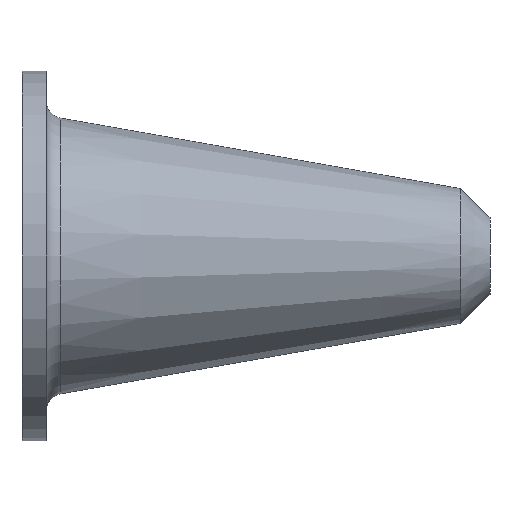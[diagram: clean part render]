
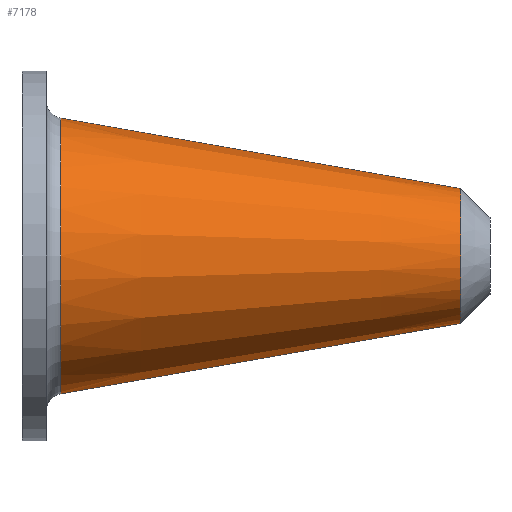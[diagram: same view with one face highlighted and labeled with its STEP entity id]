
A CAD part, front view. The second image highlights one B-rep face of the part: STEP entity #7178.
In plain terms, the highlighted conical face has half-angle 10 degrees and reference radius 1.066 mm.
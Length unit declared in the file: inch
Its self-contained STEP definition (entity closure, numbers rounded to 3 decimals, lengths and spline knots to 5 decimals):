
#941 = DIRECTION ( 'NONE',  ( -1., 0., 0. ) ) ;
#989 = DIRECTION ( 'NONE',  ( 0., 0., 1. ) ) ;
#1043 = EDGE_CURVE ( 'NONE', #3440, #9134, #7086, .T. ) ;
#1178 = VECTOR ( 'NONE', #3556, 39.37008 ) ;
#1554 = VECTOR ( 'NONE', #6618, 39.37008 ) ;
#1888 = FACE_OUTER_BOUND ( 'NONE', #2058, .T. ) ;
#1931 = CIRCLE ( 'NONE', #10756, 0.04196 ) ;
#2058 = EDGE_LOOP ( 'NONE', ( #6169, #8388, #8365, #10330 ) ) ;
#2115 = AXIS2_PLACEMENT_3D ( 'NONE', #8704, #941, #989 ) ;
#2700 = EDGE_CURVE ( 'NONE', #3861, #4194, #5715, .T. ) ;
#2981 = DIRECTION ( 'NONE',  ( 0., 0., 1. ) ) ;
#3402 = EDGE_CURVE ( 'NONE', #9134, #4194, #9131, .T. ) ;
#3440 = VERTEX_POINT ( 'NONE', #8639 ) ;
#3556 = DIRECTION ( 'NONE',  ( -0.985, 0., -0.174 ) ) ;
#3861 = VERTEX_POINT ( 'NONE', #4802 ) ;
#4194 = VERTEX_POINT ( 'NONE', #8449 ) ;
#4502 = CARTESIAN_POINT ( 'NONE',  ( 0.27329, 0., -0.04196 ) ) ;
#4802 = CARTESIAN_POINT ( 'NONE',  ( 0.27329, 0., 0.04196 ) ) ;
#5715 = LINE ( 'NONE', #9953, #1554 ) ;
#6077 = EDGE_CURVE ( 'NONE', #3440, #3861, #1931, .T. ) ;
#6169 = ORIENTED_EDGE ( 'NONE', *, *, #1043, .F. ) ;
#6217 = CARTESIAN_POINT ( 'NONE',  ( 0.02409, 0., 0. ) ) ;
#6332 = DIRECTION ( 'NONE',  ( 0., 0., 1. ) ) ;
#6618 = DIRECTION ( 'NONE',  ( -0.985, 0., 0.174 ) ) ;
#7086 = LINE ( 'NONE', #4502, #1178 ) ;
#7178 = ADVANCED_FACE ( 'NONE', ( #1888 ), #8419, .T. ) ;
#7842 = AXIS2_PLACEMENT_3D ( 'NONE', #6217, #8807, #6332 ) ;
#7844 = CARTESIAN_POINT ( 'NONE',  ( 0.02409, 0., -0.0859 ) ) ;
#8278 = CARTESIAN_POINT ( 'NONE',  ( 0.27329, 0., 0. ) ) ;
#8365 = ORIENTED_EDGE ( 'NONE', *, *, #2700, .T. ) ;
#8388 = ORIENTED_EDGE ( 'NONE', *, *, #6077, .T. ) ;
#8419 = CONICAL_SURFACE ( 'NONE', #2115, 0.04196, 0.175 ) ;
#8449 = CARTESIAN_POINT ( 'NONE',  ( 0.02409, 0., 0.0859 ) ) ;
#8639 = CARTESIAN_POINT ( 'NONE',  ( 0.27329, 0., -0.04196 ) ) ;
#8704 = CARTESIAN_POINT ( 'NONE',  ( 0.27329, 0., 0. ) ) ;
#8807 = DIRECTION ( 'NONE',  ( -1., 0., 0. ) ) ;
#9131 = CIRCLE ( 'NONE', #7842, 0.0859 ) ;
#9134 = VERTEX_POINT ( 'NONE', #7844 ) ;
#9853 = DIRECTION ( 'NONE',  ( -1., 0., 0. ) ) ;
#9953 = CARTESIAN_POINT ( 'NONE',  ( 0.27329, 0., 0.04196 ) ) ;
#10330 = ORIENTED_EDGE ( 'NONE', *, *, #3402, .F. ) ;
#10756 = AXIS2_PLACEMENT_3D ( 'NONE', #8278, #9853, #2981 ) ;
